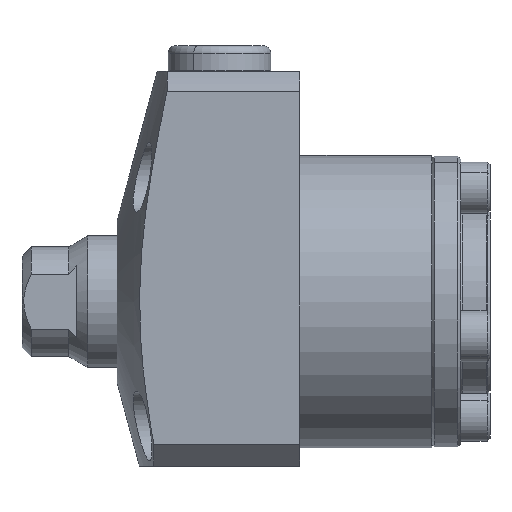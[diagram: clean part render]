
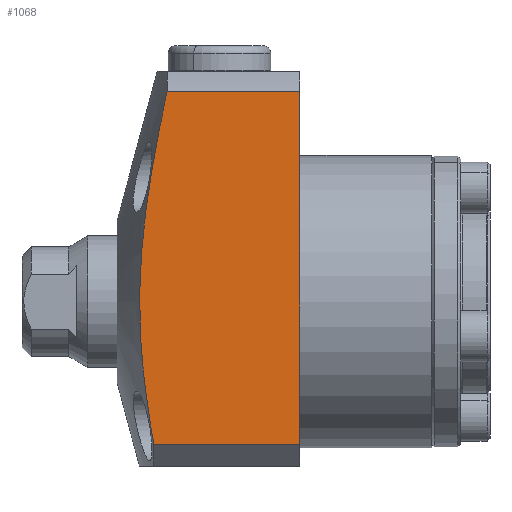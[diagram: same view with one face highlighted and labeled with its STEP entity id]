
A CAD part, left-side view. The second image highlights one B-rep face of the part: STEP entity #1068.
In plain terms, the highlighted planar face has unit normal (-1, 0, 0).
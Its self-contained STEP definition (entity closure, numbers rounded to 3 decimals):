
#135 = CARTESIAN_POINT ( 'NONE',  ( -22.5, 18.167, 28.74 ) ) ;
#160 = CARTESIAN_POINT ( 'NONE',  ( -22.5, 19.969, -19.5 ) ) ;
#163 = CARTESIAN_POINT ( 'NONE',  ( -22.5, 0., 28.74 ) ) ;
#166 = CARTESIAN_POINT ( 'NONE',  ( -22.5, 0., -19.5 ) ) ;
#851 = EDGE_LOOP ( 'NONE', ( #3695, #3696, #3697, #3698 ) ) ;
#1055 = EDGE_CURVE ( 'NONE', #5243, #5218, #1557, .T. ) ;
#1068 = ADVANCED_FACE ( 'NONE', ( #1684 ), #1685, .F. ) ;
#1361 = AXIS2_PLACEMENT_3D ( 'NONE', #1676, #1687, #1688 ) ;
#1395 = EDGE_CURVE ( 'NONE', #5243, #5249, #2516, .T. ) ;
#1396 = EDGE_CURVE ( 'NONE', #5246, #5249, #2526, .T. ) ;
#1397 = EDGE_CURVE ( 'NONE', #5246, #5218, #2535, .T. ) ;
#1557 = B_SPLINE_CURVE_WITH_KNOTS ( 'NONE', 3,
 ( #4755, #4765, #4769, #4770, #4771, #4772, #4773, #4774, #4775, #4776, #4777, #4778, #4779, #4780, #4781, #4782, #4783, #4784, #4785, #4786 ),
 .UNSPECIFIED., .F., .F.,
 ( 4, 2, 2, 2, 2, 2, 2, 2, 2, 4 ),
 ( 0.025, 0.031, 0.037, 0.043, 0.049, 0.055, 0.058, 0.061, 0.068, 0.074 ),
 .UNSPECIFIED. ) ;
#1676 = CARTESIAN_POINT ( 'NONE',  ( -22.5, 25., 31.5 ) ) ;
#1684 = FACE_OUTER_BOUND ( 'NONE', #851, .T. ) ;
#1685 = PLANE ( 'NONE',  #1361 ) ;
#1687 = DIRECTION ( 'NONE',  ( 1., 0., 0. ) ) ;
#1688 = DIRECTION ( 'NONE',  ( 0., 0., -1. ) ) ;
#2516 = LINE ( 'NONE', #2531, #4942 ) ;
#2526 = LINE ( 'NONE', #2533, #4943 ) ;
#2531 = CARTESIAN_POINT ( 'NONE',  ( -22.5, 25., -19.5 ) ) ;
#2532 = DIRECTION ( 'NONE',  ( 0., -1., 0. ) ) ;
#2533 = CARTESIAN_POINT ( 'NONE',  ( -22.5, 0., -22.5 ) ) ;
#2534 = DIRECTION ( 'NONE',  ( 0., 0., -1. ) ) ;
#2535 = LINE ( 'NONE', #2536, #4945 ) ;
#2536 = CARTESIAN_POINT ( 'NONE',  ( -22.5, 0., 28.74 ) ) ;
#2537 = DIRECTION ( 'NONE',  ( 0., 1., 0. ) ) ;
#3695 = ORIENTED_EDGE ( 'NONE', *, *, #1055, .F. ) ;
#3696 = ORIENTED_EDGE ( 'NONE', *, *, #1395, .T. ) ;
#3697 = ORIENTED_EDGE ( 'NONE', *, *, #1396, .F. ) ;
#3698 = ORIENTED_EDGE ( 'NONE', *, *, #1397, .T. ) ;
#4755 = CARTESIAN_POINT ( 'NONE',  ( -22.5, 19.969, -19.5 ) ) ;
#4765 = CARTESIAN_POINT ( 'NONE',  ( -22.5, 20.321, -17.497 ) ) ;
#4769 = CARTESIAN_POINT ( 'NONE',  ( -22.5, 20.643, -15.485 ) ) ;
#4770 = CARTESIAN_POINT ( 'NONE',  ( -22.5, 21.197, -11.462 ) ) ;
#4771 = CARTESIAN_POINT ( 'NONE',  ( -22.5, 21.429, -9.449 ) ) ;
#4772 = CARTESIAN_POINT ( 'NONE',  ( -22.5, 21.767, -5.422 ) ) ;
#4773 = CARTESIAN_POINT ( 'NONE',  ( -22.5, 21.874, -3.407 ) ) ;
#4774 = CARTESIAN_POINT ( 'NONE',  ( -22.5, 21.94, 0.626 ) ) ;
#4775 = CARTESIAN_POINT ( 'NONE',  ( -22.5, 21.9, 2.644 ) ) ;
#4776 = CARTESIAN_POINT ( 'NONE',  ( -22.5, 21.681, 6.682 ) ) ;
#4777 = CARTESIAN_POINT ( 'NONE',  ( -22.5, 21.502, 8.703 ) ) ;
#4778 = CARTESIAN_POINT ( 'NONE',  ( -22.5, 21.152, 11.735 ) ) ;
#4779 = CARTESIAN_POINT ( 'NONE',  ( -22.5, 21.022, 12.747 ) ) ;
#4780 = CARTESIAN_POINT ( 'NONE',  ( -22.5, 20.74, 14.764 ) ) ;
#4781 = CARTESIAN_POINT ( 'NONE',  ( -22.5, 20.588, 15.77 ) ) ;
#4782 = CARTESIAN_POINT ( 'NONE',  ( -22.5, 20.106, 18.781 ) ) ;
#4783 = CARTESIAN_POINT ( 'NONE',  ( -22.5, 19.749, 20.78 ) ) ;
#4784 = CARTESIAN_POINT ( 'NONE',  ( -22.5, 18.989, 24.767 ) ) ;
#4785 = CARTESIAN_POINT ( 'NONE',  ( -22.5, 18.586, 26.756 ) ) ;
#4786 = CARTESIAN_POINT ( 'NONE',  ( -22.5, 18.167, 28.74 ) ) ;
#4942 = VECTOR ( 'NONE', #2532, 1000. ) ;
#4943 = VECTOR ( 'NONE', #2534, 1000. ) ;
#4945 = VECTOR ( 'NONE', #2537, 1000. ) ;
#5218 = VERTEX_POINT ( 'NONE', #135 ) ;
#5243 = VERTEX_POINT ( 'NONE', #160 ) ;
#5246 = VERTEX_POINT ( 'NONE', #163 ) ;
#5249 = VERTEX_POINT ( 'NONE', #166 ) ;
